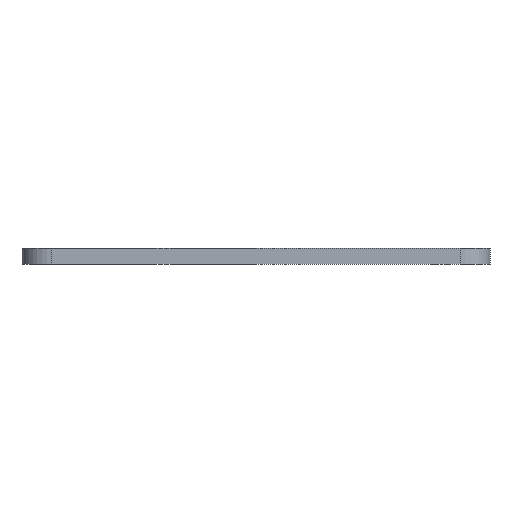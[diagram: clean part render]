
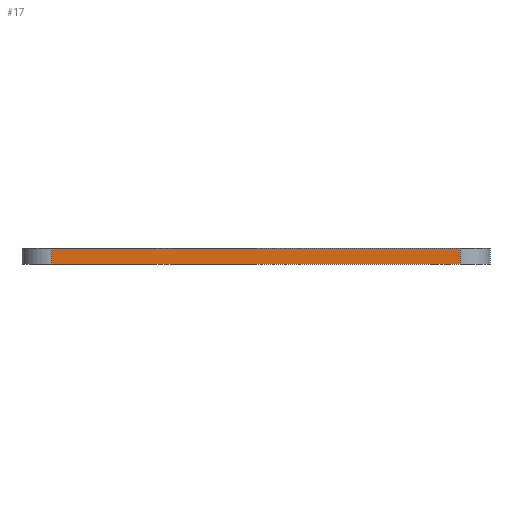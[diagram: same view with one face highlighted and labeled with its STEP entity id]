
A CAD part, left-side view. The second image highlights one B-rep face of the part: STEP entity #17.
In plain terms, the highlighted planar face has unit normal (-1, 0, 0).
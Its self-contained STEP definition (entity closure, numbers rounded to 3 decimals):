
#17 = ADVANCED_FACE('',(#18),#32,.F.);
#18 = FACE_BOUND('',#19,.F.);
#19 = EDGE_LOOP('',(#20,#55,#83,#111));
#20 = ORIENTED_EDGE('',*,*,#21,.F.);
#21 = EDGE_CURVE('',#22,#24,#26,.T.);
#22 = VERTEX_POINT('',#23);
#23 = CARTESIAN_POINT('',(-11.7,-5.2,14.1));
#24 = VERTEX_POINT('',#25);
#25 = CARTESIAN_POINT('',(-11.7,15.2,14.1));
#26 = SURFACE_CURVE('',#27,(#31,#43),.PCURVE_S1.);
#27 = LINE('',#28,#29);
#28 = CARTESIAN_POINT('',(-11.7,-6.7,14.1));
#29 = VECTOR('',#30,1.);
#30 = DIRECTION('',(0.,1.,0.));
#31 = PCURVE('',#32,#37);
#32 = PLANE('',#33);
#33 = AXIS2_PLACEMENT_3D('',#34,#35,#36);
#34 = CARTESIAN_POINT('',(-11.7,-6.7,13.3));
#35 = DIRECTION('',(1.,0.,0.));
#36 = DIRECTION('',(0.,0.,1.));
#37 = DEFINITIONAL_REPRESENTATION('',(#38),#42);
#38 = LINE('',#39,#40);
#39 = CARTESIAN_POINT('',(0.8,0.));
#40 = VECTOR('',#41,1.);
#41 = DIRECTION('',(0.,-1.));
#42 = ( GEOMETRIC_REPRESENTATION_CONTEXT(2) 
PARAMETRIC_REPRESENTATION_CONTEXT() REPRESENTATION_CONTEXT('2D SPACE',''
  ) );
#43 = PCURVE('',#44,#49);
#44 = PLANE('',#45);
#45 = AXIS2_PLACEMENT_3D('',#46,#47,#48);
#46 = CARTESIAN_POINT('',(-11.7,-6.7,14.1));
#47 = DIRECTION('',(0.,0.,1.));
#48 = DIRECTION('',(1.,0.,0.));
#49 = DEFINITIONAL_REPRESENTATION('',(#50),#54);
#50 = LINE('',#51,#52);
#51 = CARTESIAN_POINT('',(0.,0.));
#52 = VECTOR('',#53,1.);
#53 = DIRECTION('',(0.,1.));
#54 = ( GEOMETRIC_REPRESENTATION_CONTEXT(2) 
PARAMETRIC_REPRESENTATION_CONTEXT() REPRESENTATION_CONTEXT('2D SPACE',''
  ) );
#55 = ORIENTED_EDGE('',*,*,#56,.F.);
#56 = EDGE_CURVE('',#57,#22,#59,.T.);
#57 = VERTEX_POINT('',#58);
#58 = CARTESIAN_POINT('',(-11.7,-5.2,13.3));
#59 = SURFACE_CURVE('',#60,(#64,#71),.PCURVE_S1.);
#60 = LINE('',#61,#62);
#61 = CARTESIAN_POINT('',(-11.7,-5.2,13.3));
#62 = VECTOR('',#63,1.);
#63 = DIRECTION('',(0.,0.,1.));
#64 = PCURVE('',#32,#65);
#65 = DEFINITIONAL_REPRESENTATION('',(#66),#70);
#66 = LINE('',#67,#68);
#67 = CARTESIAN_POINT('',(0.,-1.5));
#68 = VECTOR('',#69,1.);
#69 = DIRECTION('',(1.,0.));
#70 = ( GEOMETRIC_REPRESENTATION_CONTEXT(2) 
PARAMETRIC_REPRESENTATION_CONTEXT() REPRESENTATION_CONTEXT('2D SPACE',''
  ) );
#71 = PCURVE('',#72,#77);
#72 = CYLINDRICAL_SURFACE('',#73,1.5);
#73 = AXIS2_PLACEMENT_3D('',#74,#75,#76);
#74 = CARTESIAN_POINT('',(-10.2,-5.2,13.3));
#75 = DIRECTION('',(0.,0.,1.));
#76 = DIRECTION('',(-1.,-0.,0.));
#77 = DEFINITIONAL_REPRESENTATION('',(#78),#82);
#78 = LINE('',#79,#80);
#79 = CARTESIAN_POINT('',(0.,0.));
#80 = VECTOR('',#81,1.);
#81 = DIRECTION('',(0.,1.));
#82 = ( GEOMETRIC_REPRESENTATION_CONTEXT(2) 
PARAMETRIC_REPRESENTATION_CONTEXT() REPRESENTATION_CONTEXT('2D SPACE',''
  ) );
#83 = ORIENTED_EDGE('',*,*,#84,.T.);
#84 = EDGE_CURVE('',#57,#85,#87,.T.);
#85 = VERTEX_POINT('',#86);
#86 = CARTESIAN_POINT('',(-11.7,15.2,13.3));
#87 = SURFACE_CURVE('',#88,(#92,#99),.PCURVE_S1.);
#88 = LINE('',#89,#90);
#89 = CARTESIAN_POINT('',(-11.7,-6.7,13.3));
#90 = VECTOR('',#91,1.);
#91 = DIRECTION('',(0.,1.,0.));
#92 = PCURVE('',#32,#93);
#93 = DEFINITIONAL_REPRESENTATION('',(#94),#98);
#94 = LINE('',#95,#96);
#95 = CARTESIAN_POINT('',(0.,0.));
#96 = VECTOR('',#97,1.);
#97 = DIRECTION('',(0.,-1.));
#98 = ( GEOMETRIC_REPRESENTATION_CONTEXT(2) 
PARAMETRIC_REPRESENTATION_CONTEXT() REPRESENTATION_CONTEXT('2D SPACE',''
  ) );
#99 = PCURVE('',#100,#105);
#100 = PLANE('',#101);
#101 = AXIS2_PLACEMENT_3D('',#102,#103,#104);
#102 = CARTESIAN_POINT('',(-11.7,-6.7,13.3));
#103 = DIRECTION('',(0.,0.,1.));
#104 = DIRECTION('',(1.,0.,0.));
#105 = DEFINITIONAL_REPRESENTATION('',(#106),#110);
#106 = LINE('',#107,#108);
#107 = CARTESIAN_POINT('',(0.,0.));
#108 = VECTOR('',#109,1.);
#109 = DIRECTION('',(0.,1.));
#110 = ( GEOMETRIC_REPRESENTATION_CONTEXT(2) 
PARAMETRIC_REPRESENTATION_CONTEXT() REPRESENTATION_CONTEXT('2D SPACE',''
  ) );
#111 = ORIENTED_EDGE('',*,*,#112,.T.);
#112 = EDGE_CURVE('',#85,#24,#113,.T.);
#113 = SURFACE_CURVE('',#114,(#118,#125),.PCURVE_S1.);
#114 = LINE('',#115,#116);
#115 = CARTESIAN_POINT('',(-11.7,15.2,13.3));
#116 = VECTOR('',#117,1.);
#117 = DIRECTION('',(0.,0.,1.));
#118 = PCURVE('',#32,#119);
#119 = DEFINITIONAL_REPRESENTATION('',(#120),#124);
#120 = LINE('',#121,#122);
#121 = CARTESIAN_POINT('',(0.,-21.9));
#122 = VECTOR('',#123,1.);
#123 = DIRECTION('',(1.,0.));
#124 = ( GEOMETRIC_REPRESENTATION_CONTEXT(2) 
PARAMETRIC_REPRESENTATION_CONTEXT() REPRESENTATION_CONTEXT('2D SPACE',''
  ) );
#125 = PCURVE('',#126,#131);
#126 = CYLINDRICAL_SURFACE('',#127,1.5);
#127 = AXIS2_PLACEMENT_3D('',#128,#129,#130);
#128 = CARTESIAN_POINT('',(-10.2,15.2,13.3));
#129 = DIRECTION('',(0.,0.,1.));
#130 = DIRECTION('',(-1.,-0.,0.));
#131 = DEFINITIONAL_REPRESENTATION('',(#132),#136);
#132 = LINE('',#133,#134);
#133 = CARTESIAN_POINT('',(-0.,0.));
#134 = VECTOR('',#135,1.);
#135 = DIRECTION('',(-0.,1.));
#136 = ( GEOMETRIC_REPRESENTATION_CONTEXT(2) 
PARAMETRIC_REPRESENTATION_CONTEXT() REPRESENTATION_CONTEXT('2D SPACE',''
  ) );
